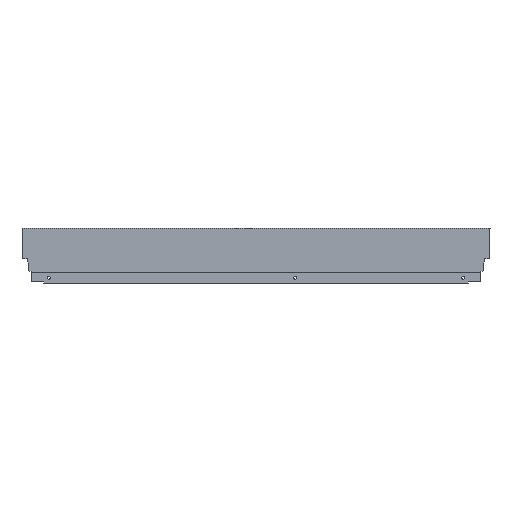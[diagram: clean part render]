
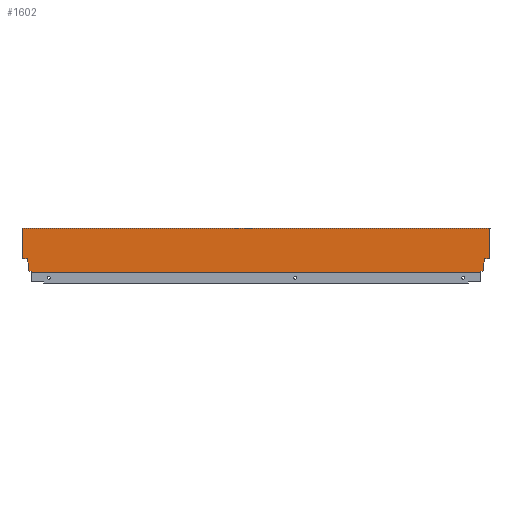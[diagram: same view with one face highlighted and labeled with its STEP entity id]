
A CAD part, top view. The second image highlights one B-rep face of the part: STEP entity #1602.
In plain terms, the highlighted planar face has unit normal (0, 0, 1).
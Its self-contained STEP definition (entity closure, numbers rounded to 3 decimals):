
#3 = EDGE_LOOP ( 'NONE', ( #1649, #1673, #1668, #1667, #1666, #1650, #1648, #1653, #1652, #1677, #1663, #1664, #1665, #1660, #1661, #1662, #1657, #1672 ) ) ;
#6 = LINE ( 'NONE', #1234, #357 ) ;
#113 = EDGE_CURVE ( 'NONE', #920, #924, #662, .T. ) ;
#216 = EDGE_CURVE ( 'NONE', #912, #906, #331, .T. ) ;
#218 = EDGE_CURVE ( 'NONE', #906, #920, #335, .T. ) ;
#220 = EDGE_CURVE ( 'NONE', #924, #904, #481, .T. ) ;
#222 = EDGE_CURVE ( 'NONE', #904, #922, #343, .T. ) ;
#224 = EDGE_CURVE ( 'NONE', #922, #916, #347, .T. ) ;
#225 = EDGE_CURVE ( 'NONE', #916, #905, #349, .T. ) ;
#226 = EDGE_CURVE ( 'NONE', #910, #898, #351, .T. ) ;
#227 = EDGE_CURVE ( 'NONE', #905, #911, #353, .T. ) ;
#228 = EDGE_CURVE ( 'NONE', #892, #918, #355, .T. ) ;
#229 = EDGE_CURVE ( 'NONE', #915, #910, #6, .T. ) ;
#230 = EDGE_CURVE ( 'NONE', #901, #896, #359, .T. ) ;
#231 = EDGE_CURVE ( 'NONE', #898, #914, #361, .T. ) ;
#233 = EDGE_CURVE ( 'NONE', #896, #912, #365, .T. ) ;
#234 = EDGE_CURVE ( 'NONE', #914, #917, #326, .T. ) ;
#235 = EDGE_CURVE ( 'NONE', #917, #918, #369, .T. ) ;
#237 = EDGE_CURVE ( 'NONE', #901, #892, #358, .T. ) ;
#239 = EDGE_CURVE ( 'NONE', #915, #911, #376, .T. ) ;
#268 = AXIS2_PLACEMENT_3D ( 'NONE', #1407, #1413, #1414 ) ;
#326 = LINE ( 'NONE', #1252, #367 ) ;
#331 = LINE ( 'NONE', #1226, #332 ) ;
#332 = VECTOR ( 'NONE', #1227, 1000. ) ;
#335 = LINE ( 'NONE', #1230, #336 ) ;
#336 = VECTOR ( 'NONE', #1231, 1000. ) ;
#339 = VECTOR ( 'NONE', #1235, 1000. ) ;
#340 = VECTOR ( 'NONE', #1271, 1000. ) ;
#343 = LINE ( 'NONE', #1238, #344 ) ;
#344 = VECTOR ( 'NONE', #1239, 1000. ) ;
#347 = LINE ( 'NONE', #1242, #348 ) ;
#348 = VECTOR ( 'NONE', #1243, 1000. ) ;
#349 = LINE ( 'NONE', #1244, #350 ) ;
#350 = VECTOR ( 'NONE', #1245, 1000. ) ;
#351 = LINE ( 'NONE', #1246, #352 ) ;
#352 = VECTOR ( 'NONE', #1247, 1000. ) ;
#353 = LINE ( 'NONE', #1248, #354 ) ;
#354 = VECTOR ( 'NONE', #1249, 1000. ) ;
#355 = LINE ( 'NONE', #1250, #356 ) ;
#356 = VECTOR ( 'NONE', #1251, 1000. ) ;
#357 = VECTOR ( 'NONE', #1253, 1000. ) ;
#358 = LINE ( 'NONE', #1270, #340 ) ;
#359 = LINE ( 'NONE', #1254, #360 ) ;
#360 = VECTOR ( 'NONE', #1255, 1000. ) ;
#361 = LINE ( 'NONE', #1256, #362 ) ;
#362 = VECTOR ( 'NONE', #1257, 1000. ) ;
#365 = LINE ( 'NONE', #1261, #366 ) ;
#366 = VECTOR ( 'NONE', #1262, 1000. ) ;
#367 = VECTOR ( 'NONE', #1264, 1000. ) ;
#369 = LINE ( 'NONE', #1265, #370 ) ;
#370 = VECTOR ( 'NONE', #1266, 1000. ) ;
#376 = LINE ( 'NONE', #1274, #377 ) ;
#377 = VECTOR ( 'NONE', #1275, 1000. ) ;
#400 = FACE_OUTER_BOUND ( 'NONE', #3, .T. ) ;
#481 = LINE ( 'NONE', #1220, #339 ) ;
#643 = VECTOR ( 'NONE', #1012, 1000. ) ;
#662 = LINE ( 'NONE', #1007, #643 ) ;
#892 = VERTEX_POINT ( 'NONE', #1284 ) ;
#896 = VERTEX_POINT ( 'NONE', #1297 ) ;
#898 = VERTEX_POINT ( 'NONE', #1299 ) ;
#901 = VERTEX_POINT ( 'NONE', #1302 ) ;
#904 = VERTEX_POINT ( 'NONE', #1305 ) ;
#905 = VERTEX_POINT ( 'NONE', #1306 ) ;
#906 = VERTEX_POINT ( 'NONE', #1307 ) ;
#910 = VERTEX_POINT ( 'NONE', #1311 ) ;
#911 = VERTEX_POINT ( 'NONE', #1312 ) ;
#912 = VERTEX_POINT ( 'NONE', #1313 ) ;
#914 = VERTEX_POINT ( 'NONE', #1315 ) ;
#915 = VERTEX_POINT ( 'NONE', #1316 ) ;
#916 = VERTEX_POINT ( 'NONE', #1317 ) ;
#917 = VERTEX_POINT ( 'NONE', #1318 ) ;
#918 = VERTEX_POINT ( 'NONE', #1319 ) ;
#920 = VERTEX_POINT ( 'NONE', #1321 ) ;
#922 = VERTEX_POINT ( 'NONE', #1323 ) ;
#924 = VERTEX_POINT ( 'NONE', #1325 ) ;
#1007 = CARTESIAN_POINT ( 'NONE',  ( 0., 0., 7.5 ) ) ;
#1012 = DIRECTION ( 'NONE',  ( 0., -1., 0. ) ) ;
#1220 = CARTESIAN_POINT ( 'NONE',  ( 0., 21.2, 7.5 ) ) ;
#1226 = CARTESIAN_POINT ( 'NONE',  ( 1., 68., 7.5 ) ) ;
#1227 = DIRECTION ( 'NONE',  ( 0., -1., 0. ) ) ;
#1230 = CARTESIAN_POINT ( 'NONE',  ( 1., 66.5, 7.5 ) ) ;
#1231 = DIRECTION ( 'NONE',  ( -1., 0., 0. ) ) ;
#1234 = CARTESIAN_POINT ( 'NONE',  ( -701.996, 1.146, 7.5 ) ) ;
#1235 = DIRECTION ( 'NONE',  ( -1., 0., 0. ) ) ;
#1238 = CARTESIAN_POINT ( 'NONE',  ( -7.06, 21.2, 7.5 ) ) ;
#1239 = DIRECTION ( 'NONE',  ( -0.174, -0.985, 0. ) ) ;
#1242 = CARTESIAN_POINT ( 'NONE',  ( -8.9, 10.765, 7.5 ) ) ;
#1243 = DIRECTION ( 'NONE',  ( 0., -1., 0. ) ) ;
#1244 = CARTESIAN_POINT ( 'NONE',  ( -8.9, 2.64, 7.5 ) ) ;
#1245 = DIRECTION ( 'NONE',  ( -0.94, -0.342, 0. ) ) ;
#1246 = CARTESIAN_POINT ( 'NONE',  ( -706.1, 2.64, 7.5 ) ) ;
#1247 = DIRECTION ( 'NONE',  ( -0.94, 0.342, 0. ) ) ;
#1248 = CARTESIAN_POINT ( 'NONE',  ( -13.004, 1.146, 7.5 ) ) ;
#1249 = DIRECTION ( 'NONE',  ( 0., -1., 0. ) ) ;
#1250 = CARTESIAN_POINT ( 'NONE',  ( -715., 0., 7.5 ) ) ;
#1251 = DIRECTION ( 'NONE',  ( 0., -1., 0. ) ) ;
#1252 = CARTESIAN_POINT ( 'NONE',  ( -707.94, 21.2, 7.5 ) ) ;
#1253 = DIRECTION ( 'NONE',  ( 0., 1., 0. ) ) ;
#1254 = CARTESIAN_POINT ( 'NONE',  ( -716., 66.5, 7.5 ) ) ;
#1255 = DIRECTION ( 'NONE',  ( 0., 1., 0. ) ) ;
#1256 = CARTESIAN_POINT ( 'NONE',  ( -706.1, 10.765, 7.5 ) ) ;
#1257 = DIRECTION ( 'NONE',  ( 0., 1., 0. ) ) ;
#1261 = CARTESIAN_POINT ( 'NONE',  ( -715., 68., 7.5 ) ) ;
#1262 = DIRECTION ( 'NONE',  ( 1., 0., 0. ) ) ;
#1264 = DIRECTION ( 'NONE',  ( -0.174, 0.985, 0. ) ) ;
#1265 = CARTESIAN_POINT ( 'NONE',  ( -720., 21.2, 7.5 ) ) ;
#1266 = DIRECTION ( 'NONE',  ( -1., 0., 0. ) ) ;
#1270 = CARTESIAN_POINT ( 'NONE',  ( -716., 66.5, 7.5 ) ) ;
#1271 = DIRECTION ( 'NONE',  ( 1., 0., 0. ) ) ;
#1274 = CARTESIAN_POINT ( 'NONE',  ( -715., 0., 7.5 ) ) ;
#1275 = DIRECTION ( 'NONE',  ( 1., 0., 0. ) ) ;
#1284 = CARTESIAN_POINT ( 'NONE',  ( -715., 66.5, 7.5 ) ) ;
#1297 = CARTESIAN_POINT ( 'NONE',  ( -716., 68., 7.5 ) ) ;
#1299 = CARTESIAN_POINT ( 'NONE',  ( -706.1, 2.64, 7.5 ) ) ;
#1302 = CARTESIAN_POINT ( 'NONE',  ( -716., 66.5, 7.5 ) ) ;
#1305 = CARTESIAN_POINT ( 'NONE',  ( -7.06, 21.2, 7.5 ) ) ;
#1306 = CARTESIAN_POINT ( 'NONE',  ( -13.004, 1.146, 7.5 ) ) ;
#1307 = CARTESIAN_POINT ( 'NONE',  ( 1., 66.5, 7.5 ) ) ;
#1311 = CARTESIAN_POINT ( 'NONE',  ( -701.996, 1.146, 7.5 ) ) ;
#1312 = CARTESIAN_POINT ( 'NONE',  ( -13.004, 0., 7.5 ) ) ;
#1313 = CARTESIAN_POINT ( 'NONE',  ( 1., 68., 7.5 ) ) ;
#1315 = CARTESIAN_POINT ( 'NONE',  ( -706.1, 10.765, 7.5 ) ) ;
#1316 = CARTESIAN_POINT ( 'NONE',  ( -701.996, 0., 7.5 ) ) ;
#1317 = CARTESIAN_POINT ( 'NONE',  ( -8.9, 2.64, 7.5 ) ) ;
#1318 = CARTESIAN_POINT ( 'NONE',  ( -707.94, 21.2, 7.5 ) ) ;
#1319 = CARTESIAN_POINT ( 'NONE',  ( -715., 21.2, 7.5 ) ) ;
#1321 = CARTESIAN_POINT ( 'NONE',  ( 0., 66.5, 7.5 ) ) ;
#1323 = CARTESIAN_POINT ( 'NONE',  ( -8.9, 10.765, 7.5 ) ) ;
#1325 = CARTESIAN_POINT ( 'NONE',  ( 0., 21.2, 7.5 ) ) ;
#1404 = PLANE ( 'NONE',  #268 ) ;
#1407 = CARTESIAN_POINT ( 'NONE',  ( -715., 0., 7.5 ) ) ;
#1413 = DIRECTION ( 'NONE',  ( 0., 0., 1. ) ) ;
#1414 = DIRECTION ( 'NONE',  ( 1., 0., 0. ) ) ;
#1602 = ADVANCED_FACE ( 'NONE', ( #400 ), #1404, .T. ) ;
#1648 = ORIENTED_EDGE ( 'NONE', *, *, #231, .F. ) ;
#1649 = ORIENTED_EDGE ( 'NONE', *, *, #233, .F. ) ;
#1650 = ORIENTED_EDGE ( 'NONE', *, *, #234, .F. ) ;
#1652 = ORIENTED_EDGE ( 'NONE', *, *, #229, .F. ) ;
#1653 = ORIENTED_EDGE ( 'NONE', *, *, #226, .F. ) ;
#1657 = ORIENTED_EDGE ( 'NONE', *, *, #218, .F. ) ;
#1660 = ORIENTED_EDGE ( 'NONE', *, *, #222, .F. ) ;
#1661 = ORIENTED_EDGE ( 'NONE', *, *, #220, .F. ) ;
#1662 = ORIENTED_EDGE ( 'NONE', *, *, #113, .F. ) ;
#1663 = ORIENTED_EDGE ( 'NONE', *, *, #227, .F. ) ;
#1664 = ORIENTED_EDGE ( 'NONE', *, *, #225, .F. ) ;
#1665 = ORIENTED_EDGE ( 'NONE', *, *, #224, .F. ) ;
#1666 = ORIENTED_EDGE ( 'NONE', *, *, #235, .F. ) ;
#1667 = ORIENTED_EDGE ( 'NONE', *, *, #228, .T. ) ;
#1668 = ORIENTED_EDGE ( 'NONE', *, *, #237, .T. ) ;
#1672 = ORIENTED_EDGE ( 'NONE', *, *, #216, .F. ) ;
#1673 = ORIENTED_EDGE ( 'NONE', *, *, #230, .F. ) ;
#1677 = ORIENTED_EDGE ( 'NONE', *, *, #239, .T. ) ;
